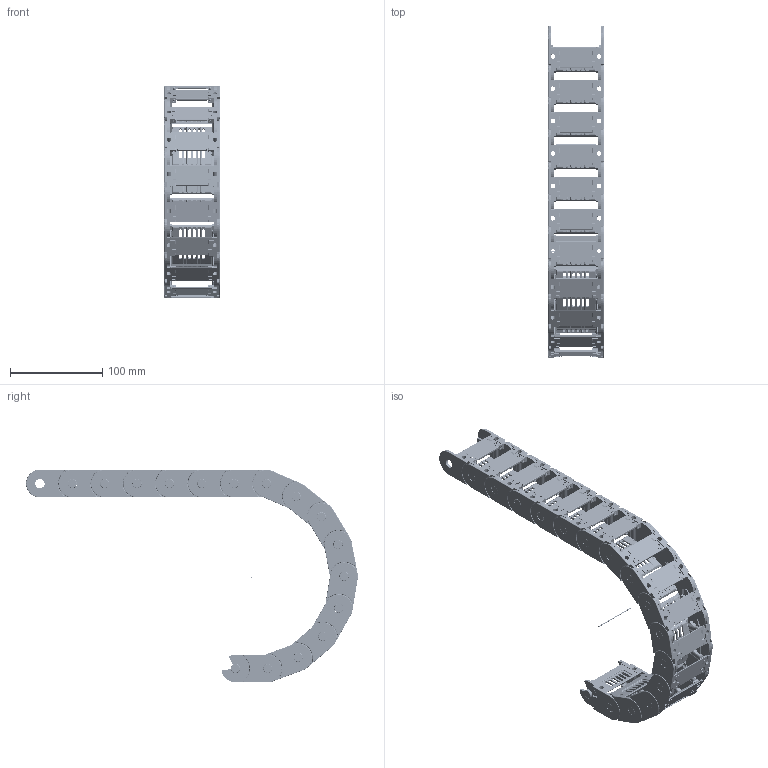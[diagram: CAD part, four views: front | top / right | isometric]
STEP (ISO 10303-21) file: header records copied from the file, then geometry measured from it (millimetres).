
FILE_DESCRIPTION((''),'2;1');
FILE_NAME('C:\Uebbing\PARAMETERKETTEN\KOLIBRI\Kol_30_060_1\KOLIBRI 30_060_1_R100.stp','2012-03-05T09:17:39',('Uebbing'),(''),'Autodesk Inventor 10','Autodesk Inventor 10','');
FILE_SCHEMA(('AUTOMOTIVE_DESIGN { 1 0 10303 214 1 1 1 1 }'));
Length unit declared in the file: millimetre
Products named in the file (5): KOLIBRI 30_060_1_PARAMETRISCH; Achse; Kolibri 30_060_1 Glied; Kol 30_060_1 Lasche; Kol 30_060_0 Klappsteg
Assembly tree (19 placements, depth 3):
  KOLIBRI 30_060_1_PARAMETRISCH
    Achse
    Kolibri 30_060_1 Glied  x16
      Kol 30_060_1 Lasche
      Kol 30_060_0 Klappsteg
Bounding box: 60 x 358.89 x 230 mm (x, y, z)
Volume: 252263.4 mm3; surface area: 240695.1 mm2
Topology: 33 solids, 33 shells, 11459 faces, 31892 edges, 20755 vertices
Faces by surface type: plane 4818, bspline 3856, cylinder 2273, torus 368, cone 96, sphere 48
Full cylindrical faces by diameter (mm): 1 x1, 1.166 x16, 2.048 x16, 2.8 x96, 5.1 x16, 10 x16, 10.1 x16
Entity records: 26331 total; most frequent: CARTESIAN_POINT 8634, ORIENTED_EDGE 3906, DIRECTION 3263, EDGE_CURVE 1953, VERTEX_POINT 1286, VECTOR 1211, LINE 1211, AXIS2_PLACEMENT_3D 1026
